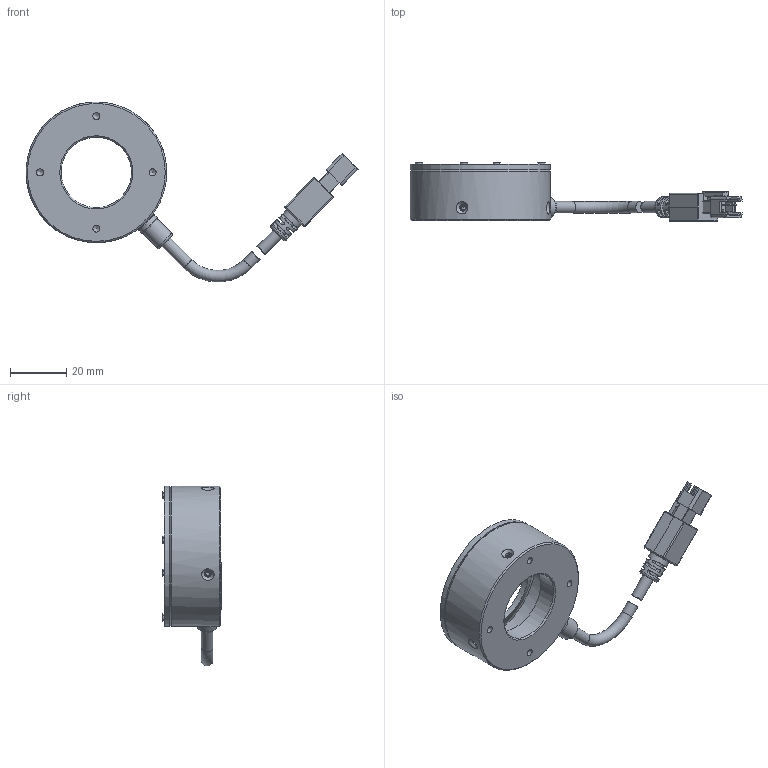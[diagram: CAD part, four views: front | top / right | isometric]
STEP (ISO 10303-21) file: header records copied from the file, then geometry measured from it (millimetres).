
FILE_DESCRIPTION (( 'STEP AP203' ), '1' );
FILE_NAME ('OPT-RI5030-X-V5.0U尨砩芞.STEP', '2024-12-12T01:30:10', ( '' ), ( '' ), 'SwSTEP 2.0', 'SolidWorks 2016', '' );
FILE_SCHEMA (( 'CONFIG_CONTROL_DESIGN' ));
Length unit declared in the file: millimetre
Products named in the file (1): OPT-RI5030-X-V5.0U尨砩芞
Bounding box: 117.95 x 20.7 x 63.94 mm (x, y, z)
Volume: 24130.5 mm3; surface area: 16256.4 mm2
Topology: 11 solids, 14 shells, 464 faces, 1152 edges, 733 vertices
Faces by surface type: plane 243, cylinder 134, cone 44, bspline 27, torus 16
Full cylindrical faces by diameter (mm): 1.1 x4, 1.4 x4, 1.6 x4, 1.7 x4, 2.4 x4, 2.5 x4, 2.6 x4, 3.5 x1, 4.1 x4, 5.8 x1, 7.5 x2, 8 x1, 25 x1, 26.5 x1, 27.6 x1, 41.8 x1, 50 x2
Entity records: 14627 total; most frequent: CARTESIAN_POINT 4259, DIRECTION 2058, ORIENTED_EDGE 2048, EDGE_CURVE 1024, AXIS2_PLACEMENT_3D 711, VERTEX_POINT 698, VECTOR 636, LINE 636
